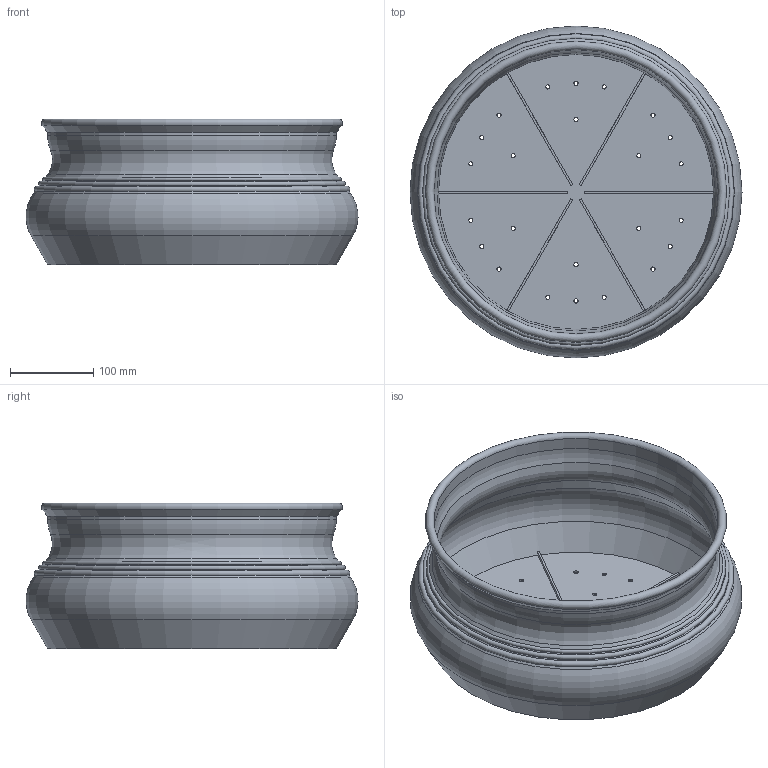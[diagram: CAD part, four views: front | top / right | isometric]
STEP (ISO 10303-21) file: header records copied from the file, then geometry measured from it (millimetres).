
FILE_DESCRIPTION(/* description */ (''),/* implementation_level */ '2;1');
FILE_NAME(/* name */ 'LR2406-S25-H175-D400_step.step',/* time_stamp */ '2024-02-01T11:00:05+01:00',/* author */ (''),/* organization */ (''),/* preprocessor_version */ 'ST-DEVELOPER v20',/* originating_system */ 'Autodesk Translation Framework v12.20.1.177',/* authorisation */ '');
FILE_SCHEMA (('AUTOMOTIVE_DESIGN { 1 0 10303 214 3 1 1 }'));
Length unit declared in the file: millimetre
Products named in the file (1): LR2406-S25-H175-D400
Bounding box: 397.97 x 397.97 x 175 mm (x, y, z)
Volume: 848161 mm3; surface area: 643978.8 mm2
Topology: 1 solids, 1 shells, 70 faces, 185 edges, 117 vertices
Faces by surface type: cylinder 32, plane 20, torus 10, cone 8
Full cylindrical faces by diameter (mm): 5 x24, 341 x1, 346 x1
Entity records: 2336 total; most frequent: DIRECTION 430, CARTESIAN_POINT 373, ORIENTED_EDGE 370, EDGE_CURVE 185, AXIS2_PLACEMENT_3D 174, EDGE_LOOP 118, VERTEX_POINT 117, CIRCLE 103
